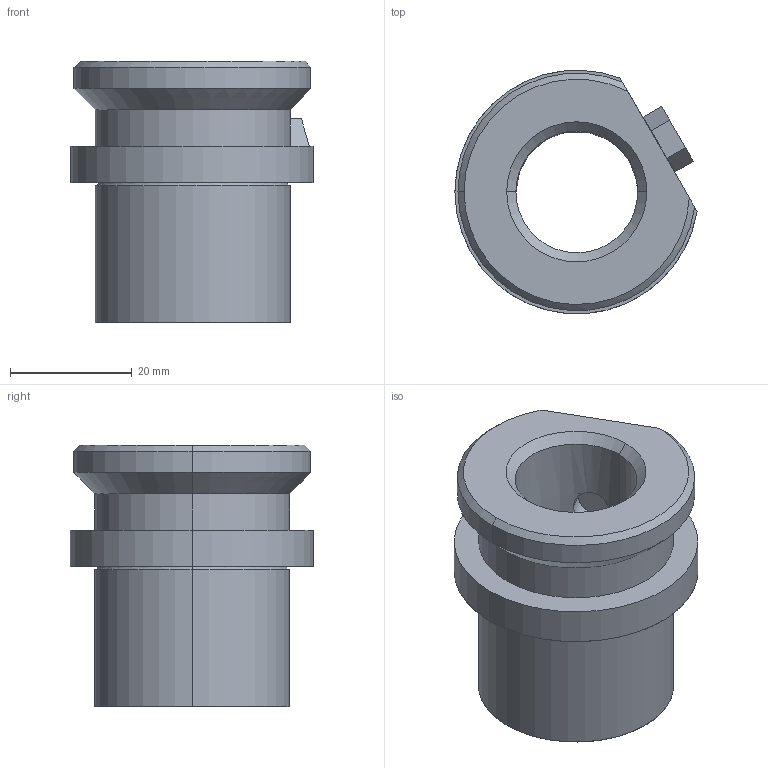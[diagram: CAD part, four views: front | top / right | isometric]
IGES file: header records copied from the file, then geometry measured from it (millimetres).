
Start section: START RECORD GO HERE.
Global section: file name: 741-20.igs; native system: DASSAULT SYSTEMES CATIA V5 R20 - www.3ds.com; preprocessor: CATIA Version 5 Release 20 ; author: Utente; organization: NB04-ASUS; date: 20210120.194539; units: millimetre
Bounding box: 39.74 x 39.98 x 43 mm (x, y, z)
Surface area: 9673.5 mm2 (no closed solid volume)
Topology: 0 solids, 0 shells, 43 faces, 203 edges, 202 vertices
Faces by surface type: revolution 29, plane 14
